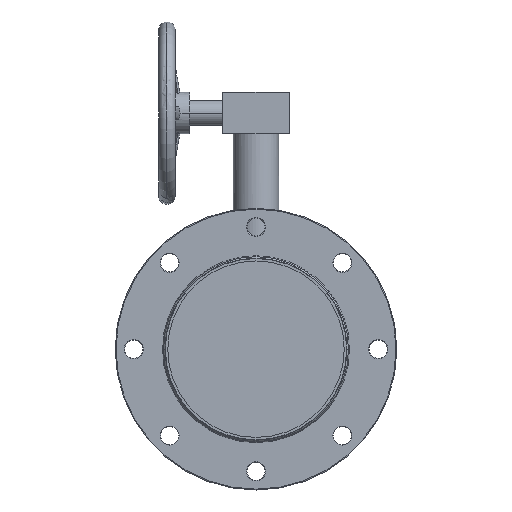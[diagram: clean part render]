
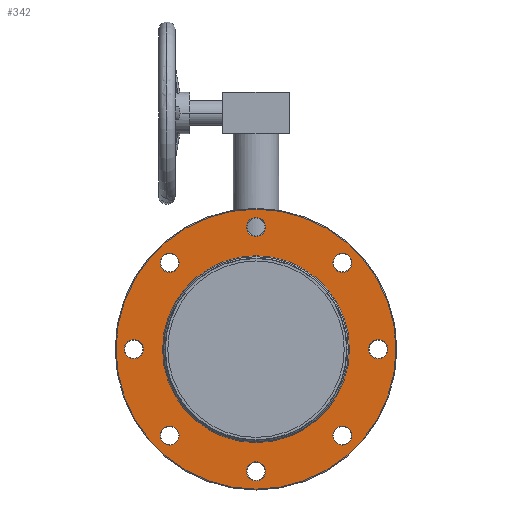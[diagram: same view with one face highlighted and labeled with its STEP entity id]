
A CAD part, front view. The second image highlights one B-rep face of the part: STEP entity #342.
In plain terms, the highlighted planar face has unit normal (0, -1, 0).
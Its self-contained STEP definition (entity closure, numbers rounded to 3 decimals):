
#211=PLANE('',#2280);
#342=ADVANCED_FACE('',(#621,#622,#623,#624,#625,#626,#627,#628,#629,#630),
#211,.F.);
#621=FACE_BOUND('',#913,.T.);
#622=FACE_BOUND('',#914,.T.);
#623=FACE_BOUND('',#915,.T.);
#624=FACE_BOUND('',#916,.T.);
#625=FACE_BOUND('',#917,.T.);
#626=FACE_BOUND('',#918,.T.);
#627=FACE_BOUND('',#919,.T.);
#628=FACE_BOUND('',#920,.T.);
#629=FACE_BOUND('',#921,.T.);
#630=FACE_BOUND('',#922,.T.);
#913=EDGE_LOOP('',(#1497));
#914=EDGE_LOOP('',(#1498));
#915=EDGE_LOOP('',(#1499));
#916=EDGE_LOOP('',(#1500));
#917=EDGE_LOOP('',(#1501));
#918=EDGE_LOOP('',(#1502));
#919=EDGE_LOOP('',(#1503));
#920=EDGE_LOOP('',(#1504));
#921=EDGE_LOOP('',(#1505));
#922=EDGE_LOOP('',(#1506));
#1114=CIRCLE('',#2269,109.5);
#1115=CIRCLE('',#2271,11.5);
#1116=CIRCLE('',#2272,11.5);
#1117=CIRCLE('',#2273,11.5);
#1118=CIRCLE('',#2274,11.5);
#1119=CIRCLE('',#2275,11.5);
#1120=CIRCLE('',#2276,11.5);
#1121=CIRCLE('',#2277,11.5);
#1122=CIRCLE('',#2278,11.5);
#1123=CIRCLE('',#2279,169.);
#1497=ORIENTED_EDGE('',*,*,#1949,.T.);
#1498=ORIENTED_EDGE('',*,*,#1950,.T.);
#1499=ORIENTED_EDGE('',*,*,#1951,.T.);
#1500=ORIENTED_EDGE('',*,*,#1952,.T.);
#1501=ORIENTED_EDGE('',*,*,#1953,.T.);
#1502=ORIENTED_EDGE('',*,*,#1954,.T.);
#1503=ORIENTED_EDGE('',*,*,#1955,.T.);
#1504=ORIENTED_EDGE('',*,*,#1956,.T.);
#1505=ORIENTED_EDGE('',*,*,#1957,.F.);
#1506=ORIENTED_EDGE('',*,*,#1948,.T.);
#1732=VERTEX_POINT('',#3740);
#1733=VERTEX_POINT('',#3743);
#1734=VERTEX_POINT('',#3745);
#1735=VERTEX_POINT('',#3747);
#1736=VERTEX_POINT('',#3749);
#1737=VERTEX_POINT('',#3751);
#1738=VERTEX_POINT('',#3753);
#1739=VERTEX_POINT('',#3755);
#1740=VERTEX_POINT('',#3757);
#1741=VERTEX_POINT('',#3759);
#1948=EDGE_CURVE('',#1732,#1732,#1114,.T.);
#1949=EDGE_CURVE('',#1733,#1733,#1115,.T.);
#1950=EDGE_CURVE('',#1734,#1734,#1116,.T.);
#1951=EDGE_CURVE('',#1735,#1735,#1117,.T.);
#1952=EDGE_CURVE('',#1736,#1736,#1118,.T.);
#1953=EDGE_CURVE('',#1737,#1737,#1119,.T.);
#1954=EDGE_CURVE('',#1738,#1738,#1120,.T.);
#1955=EDGE_CURVE('',#1739,#1739,#1121,.T.);
#1956=EDGE_CURVE('',#1740,#1740,#1122,.T.);
#1957=EDGE_CURVE('',#1741,#1741,#1123,.T.);
#2269=AXIS2_PLACEMENT_3D('',#3739,#2806,#2807);
#2271=AXIS2_PLACEMENT_3D('',#3742,#2810,#2811);
#2272=AXIS2_PLACEMENT_3D('',#3744,#2812,#2813);
#2273=AXIS2_PLACEMENT_3D('',#3746,#2814,#2815);
#2274=AXIS2_PLACEMENT_3D('',#3748,#2816,#2817);
#2275=AXIS2_PLACEMENT_3D('',#3750,#2818,#2819);
#2276=AXIS2_PLACEMENT_3D('',#3752,#2820,#2821);
#2277=AXIS2_PLACEMENT_3D('',#3754,#2822,#2823);
#2278=AXIS2_PLACEMENT_3D('',#3756,#2824,#2825);
#2279=AXIS2_PLACEMENT_3D('',#3758,#2826,#2827);
#2280=AXIS2_PLACEMENT_3D('',#3760,#2828,#2829);
#2806=DIRECTION('',(0.,1.,0.));
#2807=DIRECTION('',(0.,0.,1.));
#2810=DIRECTION('',(0.,1.,0.));
#2811=DIRECTION('',(0.,0.,1.));
#2812=DIRECTION('',(0.,1.,0.));
#2813=DIRECTION('',(0.,0.,1.));
#2814=DIRECTION('',(0.,1.,0.));
#2815=DIRECTION('',(0.,0.,1.));
#2816=DIRECTION('',(0.,1.,0.));
#2817=DIRECTION('',(0.,0.,1.));
#2818=DIRECTION('',(0.,1.,0.));
#2819=DIRECTION('',(0.,0.,1.));
#2820=DIRECTION('',(0.,1.,0.));
#2821=DIRECTION('',(0.,0.,1.));
#2822=DIRECTION('',(0.,1.,0.));
#2823=DIRECTION('',(0.,0.,1.));
#2824=DIRECTION('',(0.,1.,0.));
#2825=DIRECTION('',(0.,0.,1.));
#2826=DIRECTION('',(0.,1.,0.));
#2827=DIRECTION('',(0.,0.,1.));
#2828=DIRECTION('',(0.,1.,0.));
#2829=DIRECTION('',(0.,0.,1.));
#3739=CARTESIAN_POINT('',(0.,-58.88,0.));
#3740=CARTESIAN_POINT('',(0.,-58.88,109.5));
#3742=CARTESIAN_POINT('',(0.,-58.88,147.5));
#3743=CARTESIAN_POINT('',(0.,-58.88,159.));
#3744=CARTESIAN_POINT('',(147.5,-58.88,0.));
#3745=CARTESIAN_POINT('',(147.5,-58.88,11.5));
#3746=CARTESIAN_POINT('',(104.298,-58.88,104.298));
#3747=CARTESIAN_POINT('',(104.298,-58.88,115.798));
#3748=CARTESIAN_POINT('',(104.298,-58.88,-104.298));
#3749=CARTESIAN_POINT('',(104.298,-58.88,-92.798));
#3750=CARTESIAN_POINT('',(0.,-58.88,-147.5));
#3751=CARTESIAN_POINT('',(0.,-58.88,-136.));
#3752=CARTESIAN_POINT('',(-104.298,-58.88,-104.298));
#3753=CARTESIAN_POINT('',(-104.298,-58.88,-92.798));
#3754=CARTESIAN_POINT('',(-104.298,-58.88,104.298));
#3755=CARTESIAN_POINT('',(-104.298,-58.88,115.798));
#3756=CARTESIAN_POINT('',(-147.5,-58.88,0.));
#3757=CARTESIAN_POINT('',(-147.5,-58.88,11.5));
#3758=CARTESIAN_POINT('',(0.,-58.88,0.));
#3759=CARTESIAN_POINT('',(0.,-58.88,169.));
#3760=CARTESIAN_POINT('',(109.5,-58.88,0.));
